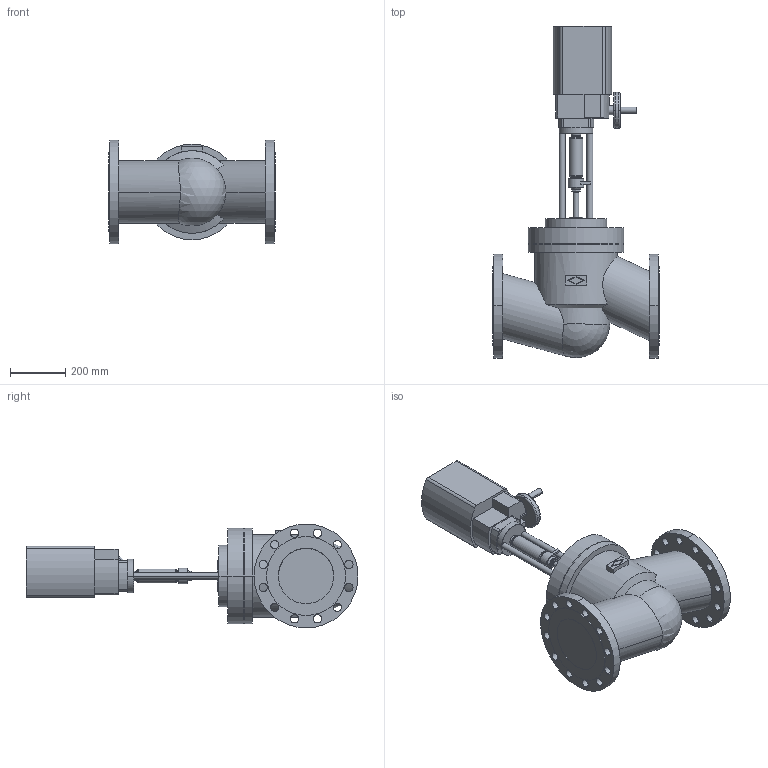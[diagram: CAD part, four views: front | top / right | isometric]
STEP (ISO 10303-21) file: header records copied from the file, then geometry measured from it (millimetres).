
FILE_DESCRIPTION( ( '' ), '1' );
FILE_NAME( 'C:/temp/WMCHECKOUT/c000007017.stp', '2018-07-26T10:29:42', ( '' ), ( '' ), ' ', ' ', ' ' );
FILE_SCHEMA( ( 'CONFIG_CONTROL_DESIGN' ) );
Length unit declared in the file: millimetre
Products named in the file (2): 1; 2
Bounding box: 600 x 1198 x 375 mm (x, y, z)
Volume: 61827791.1 mm3; surface area: 1721175.9 mm2
Topology: 2 solids, 2 shells, 232 faces, 599 edges, 394 vertices
Faces by surface type: cylinder 124, plane 85, torus 12, cone 10, sphere 1
Entity records: 7991 total; most frequent: CARTESIAN_POINT 1855, DIRECTION 1373, ORIENTED_EDGE 1194, EDGE_CURVE 597, AXIS2_PLACEMENT_3D 558, VERTEX_POINT 394, CIRCLE 320, EDGE_LOOP 305
